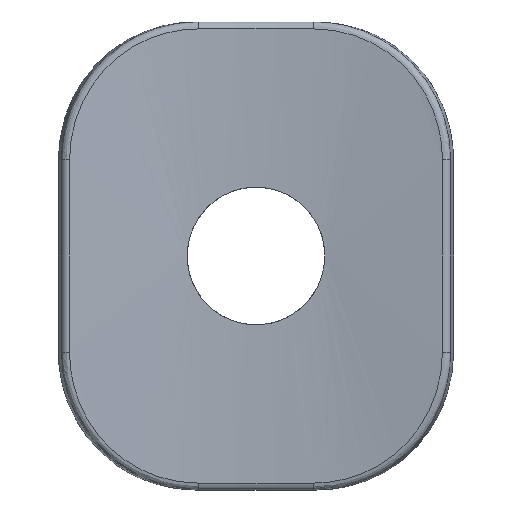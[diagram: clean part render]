
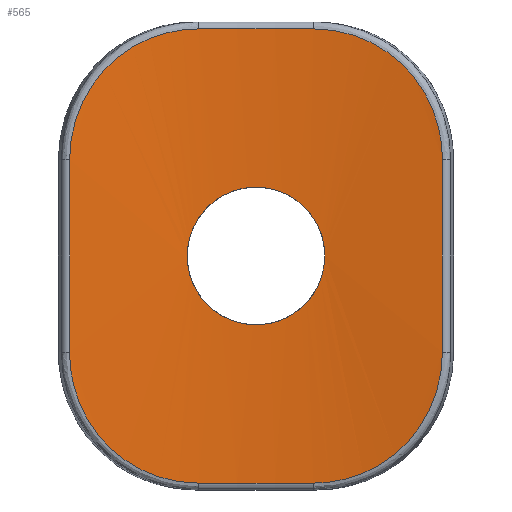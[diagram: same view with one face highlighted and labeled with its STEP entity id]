
A CAD part, front view. The second image highlights one B-rep face of the part: STEP entity #565.
In plain terms, the highlighted cylindrical face has radius 200 mm (diameter 400 mm), a partial arc.
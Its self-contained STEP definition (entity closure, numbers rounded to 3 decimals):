
#15=FACE_BOUND('',#138,.T.);
#43=CYLINDRICAL_SURFACE('',#614,200.);
#58=CIRCLE('',#601,200.);
#63=CIRCLE('',#608,200.);
#98=FACE_OUTER_BOUND('',#137,.T.);
#137=EDGE_LOOP('',(#404,#405,#406,#407,#408,#409,#410,#411));
#138=EDGE_LOOP('',(#412));
#176=LINE('',#1042,#193);
#178=LINE('',#1158,#195);
#193=VECTOR('',#665,42.418);
#195=VECTOR('',#683,42.418);
#208=B_SPLINE_CURVE_WITH_KNOTS('',3,(#894,#895,#896,#897,#898,#899,#900,
#901,#902,#903,#904,#905,#906,#907,#908,#909,#910,#911,#912,#913,#914,#915,
#916,#917,#918,#919,#920,#921,#922,#923,#924,#925,#926,#927,#928,#929),
 .UNSPECIFIED.,.T.,.F.,(4,2,2,2,2,2,2,2,2,2,2,2,2,2,2,2,2,4),(0.,0.602,
1.183,1.783,2.364,2.966,3.548,
4.149,4.731,5.333,5.916,6.521,
7.105,7.712,8.295,8.899,9.228,
9.548),.UNSPECIFIED.);
#211=B_SPLINE_CURVE_WITH_KNOTS('',3,(#1030,#1031,#1032,#1033,#1034,#1035,
#1036),.UNSPECIFIED.,.F.,.F.,(4,1,1,1,4),(0.,1.295,2.589,
3.884,4.531),.UNSPECIFIED.);
#213=B_SPLINE_CURVE_WITH_KNOTS('',3,(#1088,#1089,#1090,#1091,#1092,#1093,
#1094),.UNSPECIFIED.,.F.,.F.,(4,1,1,1,4),(0.,1.295,2.589,
3.884,4.531),.UNSPECIFIED.);
#215=B_SPLINE_CURVE_WITH_KNOTS('',3,(#1146,#1147,#1148,#1149,#1150,#1151,
#1152),.UNSPECIFIED.,.F.,.F.,(4,1,1,1,4),(0.,1.295,
2.589,3.884,4.531),.UNSPECIFIED.);
#217=B_SPLINE_CURVE_WITH_KNOTS('',3,(#1204,#1205,#1206,#1207,#1208,#1209,
#1210),.UNSPECIFIED.,.F.,.F.,(4,1,1,1,4),(0.,1.295,2.589,
3.236,4.531),.UNSPECIFIED.);
#232=VERTEX_POINT('',#893);
#234=VERTEX_POINT('',#1017);
#237=VERTEX_POINT('',#1028);
#238=VERTEX_POINT('',#1038);
#240=VERTEX_POINT('',#1078);
#242=VERTEX_POINT('',#1096);
#244=VERTEX_POINT('',#1136);
#246=VERTEX_POINT('',#1154);
#248=VERTEX_POINT('',#1194);
#278=EDGE_CURVE('',#232,#232,#208,.T.);
#284=EDGE_CURVE('',#237,#234,#211,.T.);
#287=EDGE_CURVE('',#234,#238,#176,.T.);
#290=EDGE_CURVE('',#238,#240,#213,.T.);
#293=EDGE_CURVE('',#240,#242,#58,.T.);
#296=EDGE_CURVE('',#242,#244,#215,.T.);
#299=EDGE_CURVE('',#244,#246,#178,.T.);
#302=EDGE_CURVE('',#246,#248,#217,.T.);
#304=EDGE_CURVE('',#248,#237,#63,.T.);
#404=ORIENTED_EDGE('',*,*,#284,.F.);
#405=ORIENTED_EDGE('',*,*,#304,.F.);
#406=ORIENTED_EDGE('',*,*,#302,.F.);
#407=ORIENTED_EDGE('',*,*,#299,.F.);
#408=ORIENTED_EDGE('',*,*,#296,.F.);
#409=ORIENTED_EDGE('',*,*,#293,.F.);
#410=ORIENTED_EDGE('',*,*,#290,.F.);
#411=ORIENTED_EDGE('',*,*,#287,.F.);
#412=ORIENTED_EDGE('',*,*,#278,.T.);
#565=ADVANCED_FACE('',(#98,#15),#43,.F.);
#601=AXIS2_PLACEMENT_3D('',#1100,#674,#675);
#608=AXIS2_PLACEMENT_3D('',#1213,#690,#691);
#614=AXIS2_PLACEMENT_3D('',#1244,#708,#709);
#665=DIRECTION('',(0.,0.,-1.));
#674=DIRECTION('center_axis',(0.,0.,1.));
#675=DIRECTION('ref_axis',(0.,1.,0.));
#683=DIRECTION('',(0.,0.,1.));
#690=DIRECTION('center_axis',(0.,0.,-1.));
#691=DIRECTION('ref_axis',(0.,1.,0.));
#708=DIRECTION('center_axis',(0.,0.,1.));
#709=DIRECTION('ref_axis',(0.213,0.977,0.));
#893=CARTESIAN_POINT('',(15.146,-0.574,0.));
#894=CARTESIAN_POINT('Ctrl Pts',(10.705,-0.287,10.714));
#895=CARTESIAN_POINT('Ctrl Pts',(12.123,-0.363,9.298));
#896=CARTESIAN_POINT('Ctrl Pts',(13.246,-0.438,7.613));
#897=CARTESIAN_POINT('Ctrl Pts',(14.744,-0.543,3.968));
#898=CARTESIAN_POINT('Ctrl Pts',(15.13,-0.573,2.053));
#899=CARTESIAN_POINT('Ctrl Pts',(15.161,-0.575,-1.884));
#900=CARTESIAN_POINT('Ctrl Pts',(14.779,-0.545,-3.867));
#901=CARTESIAN_POINT('Ctrl Pts',(13.293,-0.441,-7.513));
#902=CARTESIAN_POINT('Ctrl Pts',(12.224,-0.369,-9.15));
#903=CARTESIAN_POINT('Ctrl Pts',(9.481,-0.22,-11.98));
#904=CARTESIAN_POINT('Ctrl Pts',(7.813,-0.144,-13.129));
#905=CARTESIAN_POINT('Ctrl Pts',(4.187,-0.036,-14.684));
#906=CARTESIAN_POINT('Ctrl Pts',(2.274,-0.004,
-15.099));
#907=CARTESIAN_POINT('Ctrl Pts',(-1.667,0.003,
-15.186));
#908=CARTESIAN_POINT('Ctrl Pts',(-3.656,-0.025,
-14.833));
#909=CARTESIAN_POINT('Ctrl Pts',(-7.326,-0.126,-13.397));
#910=CARTESIAN_POINT('Ctrl Pts',(-8.98,-0.197,-12.349));
#911=CARTESIAN_POINT('Ctrl Pts',(-11.85,-0.346,-9.643));
#912=CARTESIAN_POINT('Ctrl Pts',(-13.022,-0.423,-7.99));
#913=CARTESIAN_POINT('Ctrl Pts',(-14.627,-0.534,-4.382));
#914=CARTESIAN_POINT('Ctrl Pts',(-15.069,-0.568,-2.47));
#915=CARTESIAN_POINT('Ctrl Pts',(-15.207,-0.579,1.489));
#916=CARTESIAN_POINT('Ctrl Pts',(-14.873,-0.553,3.498));
#917=CARTESIAN_POINT('Ctrl Pts',(-13.466,-0.453,7.2));
#918=CARTESIAN_POINT('Ctrl Pts',(-12.432,-0.382,8.866));
#919=CARTESIAN_POINT('Ctrl Pts',(-9.739,-0.233,11.774));
#920=CARTESIAN_POINT('Ctrl Pts',(-8.082,-0.155,12.968));
#921=CARTESIAN_POINT('Ctrl Pts',(-4.466,-0.042,
14.602));
#922=CARTESIAN_POINT('Ctrl Pts',(-2.556,-0.007,
15.055));
#923=CARTESIAN_POINT('Ctrl Pts',(1.4,0.005,15.214));
#924=CARTESIAN_POINT('Ctrl Pts',(3.406,-0.02,14.894));
#925=CARTESIAN_POINT('Ctrl Pts',(6.319,-0.097,13.808));
#926=CARTESIAN_POINT('Ctrl Pts',(7.303,-0.131,13.314));
#927=CARTESIAN_POINT('Ctrl Pts',(9.119,-0.206,12.139));
#928=CARTESIAN_POINT('Ctrl Pts',(9.951,-0.246,11.468));
#929=CARTESIAN_POINT('Ctrl Pts',(10.705,-0.287,10.714));
#1017=CARTESIAN_POINT('',(41.03,-4.254,21.209));
#1028=CARTESIAN_POINT('',(12.64,-0.4,49.985));
#1030=CARTESIAN_POINT('Ctrl Pts',(12.64,-0.4,49.985));
#1031=CARTESIAN_POINT('Ctrl Pts',(16.914,-0.671,49.985));
#1032=CARTESIAN_POINT('Ctrl Pts',(25.446,-1.505,48.054));
#1033=CARTESIAN_POINT('Ctrl Pts',(35.65,-3.148,39.806));
#1034=CARTESIAN_POINT('Ctrl Pts',(40.325,-4.108,29.841));
#1035=CARTESIAN_POINT('Ctrl Pts',(41.03,-4.254,23.367));
#1036=CARTESIAN_POINT('Ctrl Pts',(41.03,-4.254,21.209));
#1038=CARTESIAN_POINT('',(41.03,-4.254,-21.209));
#1042=CARTESIAN_POINT('',(41.03,-4.254,0.));
#1078=CARTESIAN_POINT('',(12.64,-0.4,-49.985));
#1088=CARTESIAN_POINT('Ctrl Pts',(41.03,-4.254,-21.209));
#1089=CARTESIAN_POINT('Ctrl Pts',(41.03,-4.254,-25.524));
#1090=CARTESIAN_POINT('Ctrl Pts',(39.117,-3.839,-34.151));
#1091=CARTESIAN_POINT('Ctrl Pts',(31.018,-2.329,-44.521));
#1092=CARTESIAN_POINT('Ctrl Pts',(21.185,-1.042,-49.279));
#1093=CARTESIAN_POINT('Ctrl Pts',(14.777,-0.535,-49.985));
#1094=CARTESIAN_POINT('Ctrl Pts',(12.64,-0.4,-49.985));
#1096=CARTESIAN_POINT('',(-12.64,-0.4,-49.985));
#1100=CARTESIAN_POINT('Origin',(0.,-200.,-49.985));
#1136=CARTESIAN_POINT('',(-41.03,-4.254,-21.209));
#1146=CARTESIAN_POINT('Ctrl Pts',(-12.64,-0.4,-49.985));
#1147=CARTESIAN_POINT('Ctrl Pts',(-16.914,-0.671,
-49.985));
#1148=CARTESIAN_POINT('Ctrl Pts',(-25.447,-1.505,-48.054));
#1149=CARTESIAN_POINT('Ctrl Pts',(-35.65,-3.148,-39.805));
#1150=CARTESIAN_POINT('Ctrl Pts',(-40.325,-4.108,-29.841));
#1151=CARTESIAN_POINT('Ctrl Pts',(-41.03,-4.254,-23.367));
#1152=CARTESIAN_POINT('Ctrl Pts',(-41.03,-4.254,-21.209));
#1154=CARTESIAN_POINT('',(-41.03,-4.254,21.209));
#1158=CARTESIAN_POINT('',(-41.03,-4.254,0.));
#1194=CARTESIAN_POINT('',(-12.64,-0.4,49.985));
#1204=CARTESIAN_POINT('Ctrl Pts',(-41.03,-4.254,21.209));
#1205=CARTESIAN_POINT('Ctrl Pts',(-41.03,-4.254,25.524));
#1206=CARTESIAN_POINT('Ctrl Pts',(-39.118,-3.837,34.155));
#1207=CARTESIAN_POINT('Ctrl Pts',(-32.366,-2.584,42.787));
#1208=CARTESIAN_POINT('Ctrl Pts',(-23.308,-1.296,48.532));
#1209=CARTESIAN_POINT('Ctrl Pts',(-16.914,-0.671,49.985));
#1210=CARTESIAN_POINT('Ctrl Pts',(-12.64,-0.4,49.985));
#1213=CARTESIAN_POINT('Origin',(0.,-200.,49.985));
#1244=CARTESIAN_POINT('Origin',(0.,-200.,0.));
